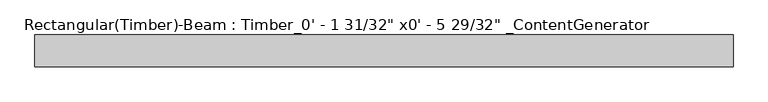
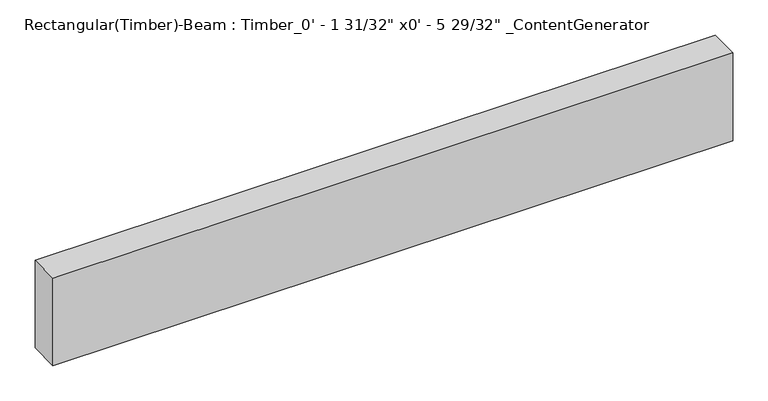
"""IFC4 building model written with IfcOpenShell, lengths in millimetres: beam geometry."""

from ifc_helpers import new_model, si_unit, frame, origin, place, context, project, spatial, polyline, outline, extrude, source, transform, mapped, element, save


def beam_a10b1f24(model_context):
    return source(origin(), model_context, "Body", "SweptSolid", [
        extrude(outline(polyline([(558.79, 25.4), (558.79, -25.4), (-558.79, -25.4), (-558.79, 25.4), (558.79, 25.4)])), frame((0.0, 0.0, -76.2), z_axis=(0.0, 0.0, 1.0), x_axis=(1.0, 0.0, 0.0)), (0.0, 0.0, 1.0), 152.4),
    ])


if __name__ == "__main__":
    model = new_model("IFC4")
    model_context = context("Model", 3, world=origin())
    ifc_project = project(units=[si_unit("LENGTHUNIT", "METRE", prefix="MILLI")], contexts=[model_context])
    site = spatial("IfcSite", under=ifc_project)
    building = spatial("IfcBuilding", under=site)
    placement = place(None, origin())
    beam_shape = beam_a10b1f24(model_context)
    element("IfcBeam", 1, ObjectType="Rectangular(Timber)-Beam : Timber_0' - 1 31/32\" x0' - 5 29/32\" _ContentGenerator", at=placement, inside=building, context=model_context, shape_type="MappedRepresentation", body=[
        mapped(beam_shape, transform((0.0, 0.0, 0.0), x_axis=(1.0, 0.0, 0.0), y_axis=(0.0, 1.0, 0.0), z_axis=(0.0, 0.0, 1.0))),
    ])
    save(model, "model.ifc")
